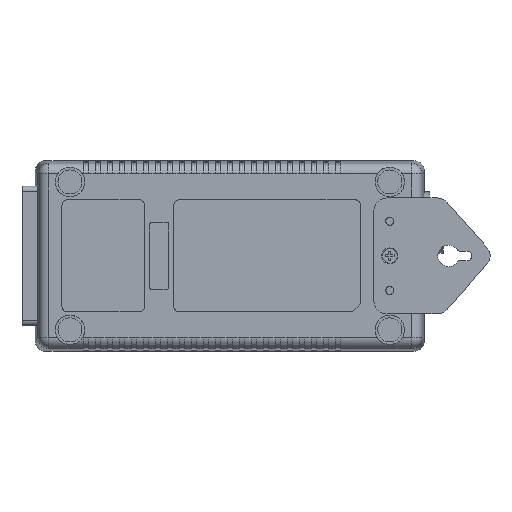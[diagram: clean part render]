
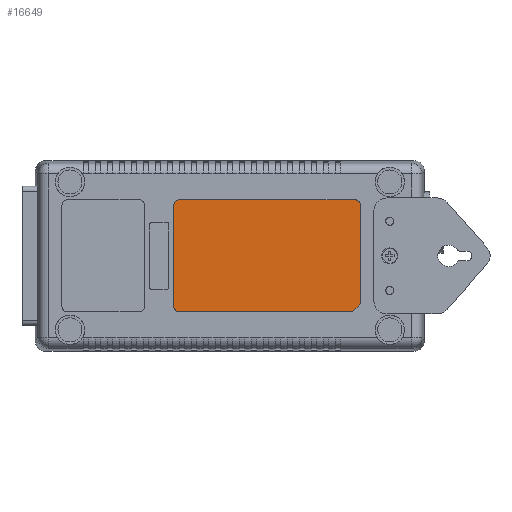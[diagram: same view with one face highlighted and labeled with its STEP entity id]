
A CAD part, top view. The second image highlights one B-rep face of the part: STEP entity #16649.
In plain terms, the highlighted planar face has unit normal (0, 0, 1).
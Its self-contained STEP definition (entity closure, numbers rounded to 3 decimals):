
#356 = LINE ( 'NONE', #24994, #46057 ) ;
#2343 = DIRECTION ( 'NONE',  ( 1., 0., 0. ) ) ;
#3465 = ORIENTED_EDGE ( 'NONE', *, *, #59216, .T. ) ;
#3598 = CIRCLE ( 'NONE', #43969, 2. ) ;
#3957 = VERTEX_POINT ( 'NONE', #14146 ) ;
#5373 = CARTESIAN_POINT ( 'NONE',  ( 47., 19., 24.8 ) ) ;
#6501 = LINE ( 'NONE', #45660, #40384 ) ;
#6609 = EDGE_CURVE ( 'NONE', #32094, #8742, #6501, .T. ) ;
#8058 = CARTESIAN_POINT ( 'NONE',  ( 47., 21., 24.8 ) ) ;
#8591 = AXIS2_PLACEMENT_3D ( 'NONE', #41151, #55357, #60808 ) ;
#8742 = VERTEX_POINT ( 'NONE', #43125 ) ;
#10533 = DIRECTION ( 'NONE',  ( 1., 0., 0. ) ) ;
#12405 = CARTESIAN_POINT ( 'NONE',  ( -19., -19., 24.8 ) ) ;
#12877 = VERTEX_POINT ( 'NONE', #19030 ) ;
#14146 = CARTESIAN_POINT ( 'NONE',  ( 49., -18., 24.8 ) ) ;
#15908 = ORIENTED_EDGE ( 'NONE', *, *, #26211, .T. ) ;
#16538 = LINE ( 'NONE', #26300, #20965 ) ;
#16631 = PLANE ( 'NONE',  #24014 ) ;
#16649 = ADVANCED_FACE ( 'NONE', ( #21500 ), #16631, .T. ) ;
#17569 = ORIENTED_EDGE ( 'NONE', *, *, #37154, .T. ) ;
#19030 = CARTESIAN_POINT ( 'NONE',  ( 46., -21., 24.8 ) ) ;
#19200 = ORIENTED_EDGE ( 'NONE', *, *, #44356, .T. ) ;
#19427 = EDGE_CURVE ( 'NONE', #33408, #37160, #60765, .T. ) ;
#20965 = VECTOR ( 'NONE', #31484, 1000. ) ;
#21205 = CARTESIAN_POINT ( 'NONE',  ( -19., 19., 24.8 ) ) ;
#21500 = FACE_OUTER_BOUND ( 'NONE', #51329, .T. ) ;
#24014 = AXIS2_PLACEMENT_3D ( 'NONE', #21205, #55757, #50955 ) ;
#24994 = CARTESIAN_POINT ( 'NONE',  ( -19., 21., 24.8 ) ) ;
#25017 = VERTEX_POINT ( 'NONE', #44097 ) ;
#25606 = EDGE_CURVE ( 'NONE', #3957, #33408, #37745, .T. ) ;
#26211 = EDGE_CURVE ( 'NONE', #25017, #32094, #53026, .T. ) ;
#26300 = CARTESIAN_POINT ( 'NONE',  ( 46., -21., 24.8 ) ) ;
#26727 = ORIENTED_EDGE ( 'NONE', *, *, #19427, .T. ) ;
#27201 = CARTESIAN_POINT ( 'NONE',  ( -19., -21., 24.8 ) ) ;
#27679 = CARTESIAN_POINT ( 'NONE',  ( 49., -18., 24.8 ) ) ;
#29419 = ORIENTED_EDGE ( 'NONE', *, *, #6609, .T. ) ;
#31484 = DIRECTION ( 'NONE',  ( 0.707, 0.707, 0. ) ) ;
#32094 = VERTEX_POINT ( 'NONE', #63252 ) ;
#33408 = VERTEX_POINT ( 'NONE', #60977 ) ;
#33828 = VERTEX_POINT ( 'NONE', #49260 ) ;
#35055 = AXIS2_PLACEMENT_3D ( 'NONE', #5373, #40013, #10533 ) ;
#35421 = VECTOR ( 'NONE', #47408, 1000. ) ;
#36990 = DIRECTION ( 'NONE',  ( 0., 0., 1. ) ) ;
#37154 = EDGE_CURVE ( 'NONE', #33828, #12877, #62390, .T. ) ;
#37160 = VERTEX_POINT ( 'NONE', #8058 ) ;
#37745 = LINE ( 'NONE', #27679, #35421 ) ;
#40013 = DIRECTION ( 'NONE',  ( 0., 0., 1. ) ) ;
#40384 = VECTOR ( 'NONE', #56261, 1000. ) ;
#41151 = CARTESIAN_POINT ( 'NONE',  ( -19., 19., 24.8 ) ) ;
#43125 = CARTESIAN_POINT ( 'NONE',  ( -21., -19., 24.8 ) ) ;
#43969 = AXIS2_PLACEMENT_3D ( 'NONE', #12405, #36990, #2343 ) ;
#44097 = CARTESIAN_POINT ( 'NONE',  ( -19., 21., 24.8 ) ) ;
#44356 = EDGE_CURVE ( 'NONE', #12877, #3957, #16538, .T. ) ;
#45660 = CARTESIAN_POINT ( 'NONE',  ( -21., -19., 24.8 ) ) ;
#46057 = VECTOR ( 'NONE', #59834, 1000. ) ;
#47408 = DIRECTION ( 'NONE',  ( 0., 1., 0. ) ) ;
#49149 = ORIENTED_EDGE ( 'NONE', *, *, #57894, .T. ) ;
#49260 = CARTESIAN_POINT ( 'NONE',  ( -19., -21., 24.8 ) ) ;
#50955 = DIRECTION ( 'NONE',  ( 1., 0., 0. ) ) ;
#51329 = EDGE_LOOP ( 'NONE', ( #15908, #29419, #49149, #17569, #19200, #56769, #26727, #3465 ) ) ;
#53026 = CIRCLE ( 'NONE', #8591, 2. ) ;
#55357 = DIRECTION ( 'NONE',  ( 0., 0., 1. ) ) ;
#55757 = DIRECTION ( 'NONE',  ( 0., 0., 1. ) ) ;
#56261 = DIRECTION ( 'NONE',  ( 0., -1., 0. ) ) ;
#56769 = ORIENTED_EDGE ( 'NONE', *, *, #25606, .T. ) ;
#57222 = DIRECTION ( 'NONE',  ( 1., 0., 0. ) ) ;
#57894 = EDGE_CURVE ( 'NONE', #8742, #33828, #3598, .T. ) ;
#58258 = VECTOR ( 'NONE', #57222, 1000. ) ;
#59216 = EDGE_CURVE ( 'NONE', #37160, #25017, #356, .T. ) ;
#59834 = DIRECTION ( 'NONE',  ( -1., 0., 0. ) ) ;
#60765 = CIRCLE ( 'NONE', #35055, 2. ) ;
#60808 = DIRECTION ( 'NONE',  ( 1., 0., 0. ) ) ;
#60977 = CARTESIAN_POINT ( 'NONE',  ( 49., 19., 24.8 ) ) ;
#62390 = LINE ( 'NONE', #27201, #58258 ) ;
#63252 = CARTESIAN_POINT ( 'NONE',  ( -21., 19., 24.8 ) ) ;
